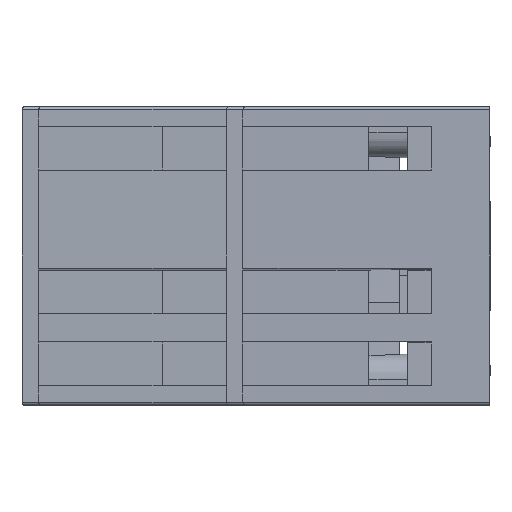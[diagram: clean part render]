
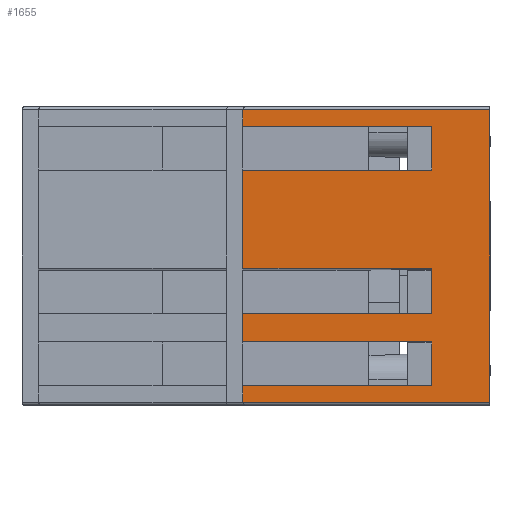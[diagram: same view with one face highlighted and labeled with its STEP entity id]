
A CAD part, left-side view. The second image highlights one B-rep face of the part: STEP entity #1655.
In plain terms, the highlighted planar face has unit normal (-1, 0.016, 0).
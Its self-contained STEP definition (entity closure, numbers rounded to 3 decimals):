
#1655=ADVANCED_FACE('',(#4064),#3022,.T.);
#3022=PLANE('',#26151);
#4064=FACE_OUTER_BOUND('',#5314,.T.);
#5314=EDGE_LOOP('',(#7839,#7840,#7841,#7842,#7843,#7844,#7845,#7846,#7847,
#7848,#7849,#7850,#7851,#7852,#7853,#7854));
#7839=ORIENTED_EDGE('',*,*,#17265,.T.);
#7840=ORIENTED_EDGE('',*,*,#17415,.T.);
#7841=ORIENTED_EDGE('',*,*,#17416,.F.);
#7842=ORIENTED_EDGE('',*,*,#17417,.T.);
#7843=ORIENTED_EDGE('',*,*,#17178,.T.);
#7844=ORIENTED_EDGE('',*,*,#17190,.F.);
#7845=ORIENTED_EDGE('',*,*,#17418,.F.);
#7846=ORIENTED_EDGE('',*,*,#17230,.T.);
#7847=ORIENTED_EDGE('',*,*,#17222,.T.);
#7848=ORIENTED_EDGE('',*,*,#17419,.T.);
#7849=ORIENTED_EDGE('',*,*,#16681,.F.);
#7850=ORIENTED_EDGE('',*,*,#17420,.T.);
#7851=ORIENTED_EDGE('',*,*,#17314,.T.);
#7852=ORIENTED_EDGE('',*,*,#17329,.F.);
#7853=ORIENTED_EDGE('',*,*,#17421,.F.);
#7854=ORIENTED_EDGE('',*,*,#17273,.T.);
#14252=VERTEX_POINT('',#35206);
#14253=VERTEX_POINT('',#35208);
#14691=VERTEX_POINT('',#36306);
#14692=VERTEX_POINT('',#36308);
#14701=VERTEX_POINT('',#36329);
#14731=VERTEX_POINT('',#36395);
#14732=VERTEX_POINT('',#36397);
#14739=VERTEX_POINT('',#36413);
#14768=VERTEX_POINT('',#36480);
#14769=VERTEX_POINT('',#36482);
#14776=VERTEX_POINT('',#36498);
#14811=VERTEX_POINT('',#36579);
#14812=VERTEX_POINT('',#36580);
#14824=VERTEX_POINT('',#36607);
#14881=VERTEX_POINT('',#36775);
#14882=VERTEX_POINT('',#36777);
#16681=EDGE_CURVE('',#14252,#14253,#20303,.T.);
#17178=EDGE_CURVE('',#14692,#14691,#20745,.T.);
#17190=EDGE_CURVE('',#14701,#14691,#20757,.T.);
#17222=EDGE_CURVE('',#14732,#14731,#20789,.T.);
#17230=EDGE_CURVE('',#14739,#14732,#20797,.T.);
#17265=EDGE_CURVE('',#14769,#14768,#20832,.T.);
#17273=EDGE_CURVE('',#14776,#14769,#20840,.T.);
#17314=EDGE_CURVE('',#14811,#14812,#20881,.T.);
#17329=EDGE_CURVE('',#14824,#14812,#20896,.T.);
#17415=EDGE_CURVE('',#14768,#14881,#20977,.T.);
#17416=EDGE_CURVE('',#14882,#14881,#20978,.T.);
#17417=EDGE_CURVE('',#14882,#14692,#20979,.T.);
#17418=EDGE_CURVE('',#14739,#14701,#20980,.T.);
#17419=EDGE_CURVE('',#14731,#14253,#20981,.T.);
#17420=EDGE_CURVE('',#14252,#14811,#20982,.T.);
#17421=EDGE_CURVE('',#14776,#14824,#20983,.T.);
#20303=LINE('',#35207,#23223);
#20745=LINE('',#36307,#23665);
#20757=LINE('',#36330,#23677);
#20789=LINE('',#36396,#23709);
#20797=LINE('',#36412,#23717);
#20832=LINE('',#36481,#23752);
#20840=LINE('',#36497,#23760);
#20881=LINE('',#36578,#23801);
#20896=LINE('',#36608,#23816);
#20977=LINE('',#36774,#23897);
#20978=LINE('',#36776,#23898);
#20979=LINE('',#36778,#23899);
#20980=LINE('',#36779,#23900);
#20981=LINE('',#36780,#23901);
#20982=LINE('',#36781,#23902);
#20983=LINE('',#36782,#23903);
#23223=VECTOR('',#28181,1.);
#23665=VECTOR('',#28833,1.);
#23677=VECTOR('',#28847,1.);
#23709=VECTOR('',#28887,1.);
#23717=VECTOR('',#28897,1.);
#23752=VECTOR('',#28940,1.);
#23760=VECTOR('',#28950,1.);
#23801=VECTOR('',#29001,1.);
#23816=VECTOR('',#29018,1.);
#23897=VECTOR('',#29157,1.);
#23898=VECTOR('',#29158,1.);
#23899=VECTOR('',#29159,1.);
#23900=VECTOR('',#29160,1.);
#23901=VECTOR('',#29161,1.);
#23902=VECTOR('',#29162,1.);
#23903=VECTOR('',#29163,1.);
#26151=AXIS2_PLACEMENT_3D('',#36783,#29164,#29165);
#28181=DIRECTION('',(0.,0.,-1.));
#28833=DIRECTION('',(0.,0.,-1.));
#28847=DIRECTION('',(0.016,1.,0.));
#28887=DIRECTION('',(0.,0.,-1.));
#28897=DIRECTION('',(0.016,1.,0.));
#28940=DIRECTION('',(0.,0.,-1.));
#28950=DIRECTION('',(0.016,1.,0.));
#29001=DIRECTION('',(0.,0.,-1.));
#29018=DIRECTION('',(0.016,1.,0.));
#29157=DIRECTION('',(-0.016,-1.,0.));
#29158=DIRECTION('',(0.,0.,1.));
#29159=DIRECTION('',(0.016,1.,0.));
#29160=DIRECTION('',(0.,0.,1.));
#29161=DIRECTION('',(-0.016,-1.,0.));
#29162=DIRECTION('',(0.016,1.,0.));
#29163=DIRECTION('',(0.,0.,1.));
#29164=DIRECTION('',(-1.,0.016,0.));
#29165=DIRECTION('',(-0.016,-1.,0.));
#35206=CARTESIAN_POINT('',(-57.074,7.472,13.3));
#35207=CARTESIAN_POINT('',(-57.074,7.472,13.6));
#35208=CARTESIAN_POINT('',(-57.074,7.472,-13.3));
#36306=CARTESIAN_POINT('',(-56.724,29.972,-7.825));
#36307=CARTESIAN_POINT('',(-56.724,29.972,13.6));
#36308=CARTESIAN_POINT('',(-56.724,29.972,-5.275));
#36329=CARTESIAN_POINT('',(-56.991,12.772,-7.825));
#36330=CARTESIAN_POINT('',(-56.991,12.772,-7.825));
#36395=CARTESIAN_POINT('',(-56.724,29.972,-13.3));
#36396=CARTESIAN_POINT('',(-56.724,29.972,13.6));
#36397=CARTESIAN_POINT('',(-56.724,29.972,-11.825));
#36412=CARTESIAN_POINT('',(-56.991,12.772,-11.825));
#36413=CARTESIAN_POINT('',(-56.991,12.772,-11.825));
#36480=CARTESIAN_POINT('',(-56.724,29.972,-1.125));
#36481=CARTESIAN_POINT('',(-56.724,29.972,13.6));
#36482=CARTESIAN_POINT('',(-56.724,29.972,7.825));
#36497=CARTESIAN_POINT('',(-56.991,12.772,7.825));
#36498=CARTESIAN_POINT('',(-56.991,12.772,7.825));
#36578=CARTESIAN_POINT('',(-56.724,29.972,13.6));
#36579=CARTESIAN_POINT('',(-56.724,29.972,13.3));
#36580=CARTESIAN_POINT('',(-56.724,29.972,11.825));
#36607=CARTESIAN_POINT('',(-56.991,12.772,11.825));
#36608=CARTESIAN_POINT('',(-56.991,12.772,11.825));
#36774=CARTESIAN_POINT('',(-56.991,12.772,-1.125));
#36775=CARTESIAN_POINT('',(-56.991,12.772,-1.125));
#36776=CARTESIAN_POINT('',(-56.991,12.772,-5.275));
#36777=CARTESIAN_POINT('',(-56.991,12.772,-5.275));
#36778=CARTESIAN_POINT('',(-56.991,12.772,-5.275));
#36779=CARTESIAN_POINT('',(-56.991,12.772,-11.825));
#36780=CARTESIAN_POINT('',(-57.074,7.472,-13.3));
#36781=CARTESIAN_POINT('',(-57.074,7.472,13.3));
#36782=CARTESIAN_POINT('',(-56.991,12.772,7.825));
#36783=CARTESIAN_POINT('',(-57.074,7.472,13.6));
